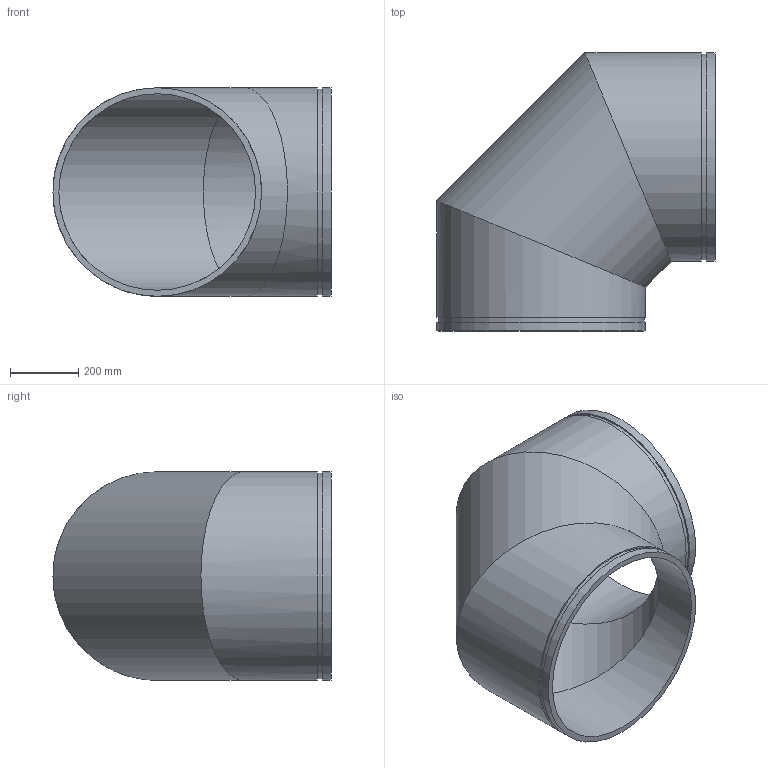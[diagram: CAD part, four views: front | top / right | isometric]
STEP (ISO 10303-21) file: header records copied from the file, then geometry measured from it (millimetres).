
FILE_DESCRIPTION(/* description */ ('VIC 90 DEG ELBOW FABRICATED No 10 SWS (OGS)','CAx-IF Rec.Pracs.---Representation and Presentation of Product Manufacturing Information (PMI)---4.0---2014-10-13'),/* implementation_level */ '2;1');
FILE_NAME(/* name */ 'C:\Users\kkamble\AppData\Roaming\Autodesk\ApplicationPlugins\Back Up\Victaulic_IPS_Elbow 90 Deg_No 10 SWS (OGS)\Victaulic_IPS_Elbow 90 Deg_No 10 SWS (OGS)_24 (600).stp',/* time_stamp */ '2020-09-16T22:18:26+06:00',/* author */ ('cgray'),/* organization */ ('Victaulic'),/* preprocessor_version */ 'ST-DEVELOPER v17.2',/* originating_system */ 'Autodesk Inventor 2019',/* authorisation */ '');
FILE_SCHEMA (('AP242_MANAGED_MODEL_BASED_3D_ENGINEERING_MIM_LF { 1 0 10303 442 1 1 4 }'));
Length unit declared in the file: inch
Products named in the file (1): 10 SWS-24.0
Bounding box: 812.8 x 812.8 x 609.6 mm (x, y, z)
Volume: 27913606 mm3; surface area: 3323899.3 mm2
Topology: 1 solids, 1 shells, 16 faces, 38 edges, 28 vertices
Faces by surface type: cylinder 10, plane 6
Full cylindrical faces by diameter (mm): 574.7 x3, 600.862 x2, 609.6 x5
Entity records: 646 total; most frequent: DIRECTION 126, CARTESIAN_POINT 100, ORIENTED_EDGE 76, AXIS2_PLACEMENT_3D 58, EDGE_CURVE 38, VERTEX_POINT 28, EDGE_LOOP 22, STYLED_ITEM 18
